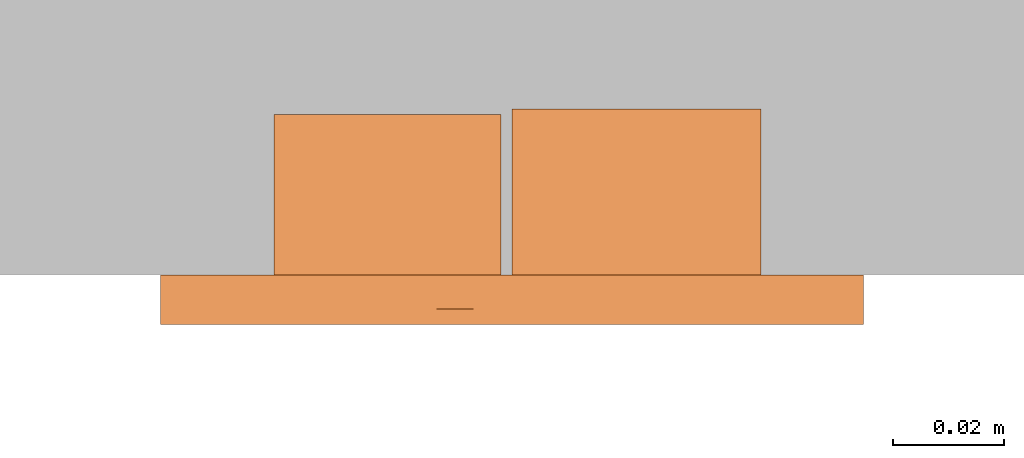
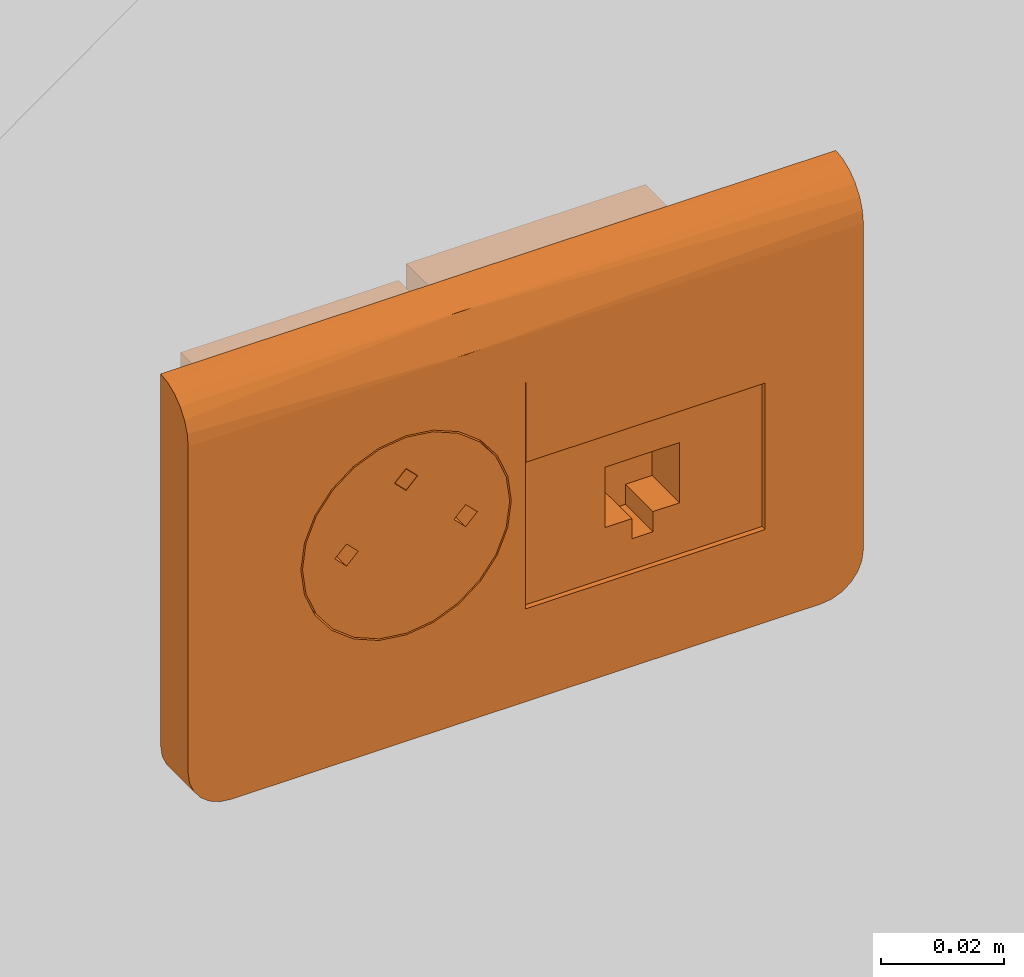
# One storey, part 115 of 197: 1 proxy.
"""IFC2X3 building model written with IfcOpenShell, lengths in metres."""

import ifcopenshell
import ifcopenshell.guid

model = None  # the IFC model being written
_history = None  # IfcOwnerHistory: only IFC2X3 demands one
_inside = {}  # id of a spatial element -> (the spatial element, [elements in it])
_under = {}  # id of a project, library or spatial element -> (it, [spatial elements below it])
_declared = {}  # id of a project -> (the project, [libraries it declares])
_typed = {}  # id of a type object -> (the type object, [elements of that type])
_made_of = {}  # id of a material, layer set ... -> (it, [elements and type objects made of it])


def new_model(schema):
    """Start an empty IFC model of exactly this schema.

    Asked for "IFC4X3", IfcOpenShell would pick the latest addendum, in which some entities
    have other attributes; the version numbers below select the first issue.
    IFC2X3 requires an IfcOwnerHistory on every rooted entity: one is made here for all.
    """
    global model, _history
    if schema == "IFC4X3":
        model = ifcopenshell.file(schema_version=(4, 3, 0, 0))
    else:
        model = ifcopenshell.file(schema=schema)
    _inside.clear()
    _under.clear()
    _declared.clear()
    _typed.clear()
    _made_of.clear()
    _history = None
    if model.schema == "IFC2X3":
        org = make("IfcOrganization", Name="unknown")
        user = make(
            "IfcPersonAndOrganization",
            ThePerson=make("IfcPerson", FamilyName="unknown"),
            TheOrganization=org,
        )
        app = make(
            "IfcApplication",
            ApplicationDeveloper=org,
            Version="unknown",
            ApplicationFullName="unknown",
            ApplicationIdentifier="unknown",
        )
        _history = make(
            "IfcOwnerHistory",
            OwningUser=user,
            OwningApplication=app,
            ChangeAction="ADDED",
            CreationDate=0,
        )
    return model


def make(cls, **values):
    """One entity of the class cls with the attributes given. An attribute that is None is left unset."""
    return model.create_entity(
        cls, **{name: value for name, value in values.items() if value is not None}
    )


def entity(cls, *values):
    """Any entity or typed value of the class cls, its attributes in the order of the schema. None: left unset."""
    e = model.create_entity(cls)
    for i, value in enumerate(values):
        if value is not None:
            e[i] = value
    return e


def rooted(cls, **values):
    """An entity with a GlobalId (a new one), such as an element, a storey or a relation."""
    return make(cls, GlobalId=ifcopenshell.guid.new(), OwnerHistory=_history, **values)


def si_unit(unit_type, name, prefix=None):
    """IfcSIUnit, for example si_unit("LENGTHUNIT", "METRE", prefix="MILLI")."""
    return make("IfcSIUnit", UnitType=unit_type, Prefix=prefix, Name=name)


def converted_unit(unit_type, name, factor, base, dimensions=None, offset=None):
    """IfcConversionBasedUnit, such as the inch: factor (a typed value) times the base unit."""
    return make(
        "IfcConversionBasedUnit"
        if offset is None
        else "IfcConversionBasedUnitWithOffset",
        ConversionOffset=offset,
        Dimensions=None
        if dimensions is None
        else entity("IfcDimensionalExponents", *dimensions),
        UnitType=unit_type,
        Name=name,
        ConversionFactor=make(
            "IfcMeasureWithUnit", ValueComponent=factor, UnitComponent=base
        ),
    )


def assignment(units):
    """IfcUnitAssignment: the units of a project."""
    return None if units is None else make("IfcUnitAssignment", Units=units)


def point(xyz):
    """IfcCartesianPoint."""
    return None if xyz is None else make("IfcCartesianPoint", Coordinates=xyz)


def direction(xyz):
    """IfcDirection."""
    return None if xyz is None else make("IfcDirection", DirectionRatios=xyz)


def frame(location, z_axis=None, x_axis=None):
    """IfcAxis2Placement3D, a coordinate frame: its origin and axes. An axis left out is left unset."""
    return make(
        "IfcAxis2Placement3D",
        Location=point(location),
        Axis=direction(z_axis),
        RefDirection=direction(x_axis),
    )


def origin():
    """The frame at (0, 0, 0) with its axes left unset."""
    return frame((0.0, 0.0, 0.0))


def place(relative_to, where):
    """IfcLocalPlacement: puts the frame where relative to a parent placement (None: the world)."""
    return make(
        "IfcLocalPlacement", PlacementRelTo=relative_to, RelativePlacement=where
    )


def context(
    kind, dimensions, precision=None, world=None, true_north=None, identifier=None
):
    """IfcGeometricRepresentationContext, for example the 3D "Model" context."""
    return make(
        "IfcGeometricRepresentationContext",
        ContextIdentifier=identifier,
        ContextType=kind,
        CoordinateSpaceDimension=dimensions,
        Precision=precision,
        WorldCoordinateSystem=world,
        TrueNorth=true_north,
    )


def subcontext(parent, identifier, kind, view, scale=None):
    """IfcGeometricRepresentationSubContext, for example "Body" below "Model"."""
    return make(
        "IfcGeometricRepresentationSubContext",
        ContextIdentifier=identifier,
        ContextType=kind,
        ParentContext=parent,
        TargetScale=scale,
        TargetView=view,
    )


def project(units=None, contexts=None):
    """IfcProject with its units and contexts."""
    return rooted(
        "IfcProject",
        Name="project",
        RepresentationContexts=contexts,
        UnitsInContext=assignment(units),
    )


def spatial(cls, under=None, at=None, **own):
    """A site, building, storey or space (cls), placed at a placement, below another one or the project."""
    s = rooted(cls, ObjectPlacement=at, **own)
    if under is not None:
        _under.setdefault(under.id(), (under, []))[1].append(s)
    return s


def faces_of(points, faces, orient=None, outer=None):
    """IfcFace entities. A face is a list of loops; a loop is a list of indices into points, from 0.

    orient and outer hold one flag for each loop. By default every Orientation is true, the
    first loop of a face is its IfcFaceOuterBound and the others are IfcFaceBound.
    """
    made = []
    for i, loops in enumerate(faces):
        bounds = []
        for j, loop in enumerate(loops):
            is_outer = j == 0 if outer is None else outer[i][j]
            bounds.append(
                make(
                    "IfcFaceOuterBound" if is_outer else "IfcFaceBound",
                    Bound=make("IfcPolyLoop", Polygon=[points[k] for k in loop]),
                    Orientation=True if orient is None else orient[i][j],
                )
            )
        made.append(make("IfcFace", Bounds=bounds))
    return made


def faceted_brep(points, faces, orient=None, outer=None, voids=None):
    """IfcFacetedBrep: a solid bounded by flat faces; with voids (closed shells), ...WithVoids."""
    shared = [point(p) for p in points]
    hull = make("IfcClosedShell", CfsFaces=faces_of(shared, faces, orient, outer))
    if voids is None:
        return make("IfcFacetedBrep", Outer=hull)
    return make(
        "IfcFacetedBrepWithVoids",
        Outer=hull,
        Voids=[
            make(cls, CfsFaces=faces_of(shared, fs, o, b)) for cls, fs, o, b in voids
        ],
    )


def shape(context_of_items, identifier, shape_type, items):
    """IfcShapeRepresentation: the items that make up one representation, for example the "Body"."""
    return make(
        "IfcShapeRepresentation",
        ContextOfItems=context_of_items,
        RepresentationIdentifier=identifier,
        RepresentationType=shape_type,
        Items=items,
    )


def source(mapping_origin, context_of_items, identifier, shape_type, items):
    """IfcRepresentationMap: a shape defined once, which mapped items show again and again."""
    return make(
        "IfcRepresentationMap",
        MappingOrigin=mapping_origin,
        MappedRepresentation=shape(context_of_items, identifier, shape_type, items),
    )


def transform(
    local_origin,
    x_axis=None,
    y_axis=None,
    z_axis=None,
    scale=None,
    scale2=None,
    scale3=None,
    uniform=True,
):
    """IfcCartesianTransformationOperator3D, or its non-uniform kind. x_axis, y_axis, z_axis: its Axis1, 2, 3."""
    if uniform:
        return make(
            "IfcCartesianTransformationOperator3D",
            Axis1=direction(x_axis),
            Axis2=direction(y_axis),
            LocalOrigin=point(local_origin),
            Scale=scale,
            Axis3=direction(z_axis),
        )
    return make(
        "IfcCartesianTransformationOperator3DnonUniform",
        Axis1=direction(x_axis),
        Axis2=direction(y_axis),
        LocalOrigin=point(local_origin),
        Scale=scale,
        Axis3=direction(z_axis),
        Scale2=scale2,
        Scale3=scale3,
    )


def mapped(mapping_source, mapping_target):
    """IfcMappedItem: shows the shape of a source again, moved by a transform."""
    return make(
        "IfcMappedItem", MappingSource=mapping_source, MappingTarget=mapping_target
    )


def material(Name=None, Category=None):
    """IfcMaterial."""
    return make("IfcMaterial", Name=Name, Category=Category)


def material_list(materials):
    """IfcMaterialList."""
    return make("IfcMaterialList", Materials=materials)


def made_of(thing, what):
    """Note that an element or type object is made of a material, layer set ...; save() writes the relation."""
    if what is not None:
        _made_of.setdefault(what.id(), (what, []))[1].append(thing)
    return thing


def type_object(cls, material=None, **own):
    """A type object (cls), such as IfcWallType, which elements share."""
    return made_of(rooted(cls, **own), material)


def type_shapes(of_type, sources):
    """Give a type object the sources (RepresentationMaps) that its elements show as mapped items."""
    of_type.RepresentationMaps = sources


def element(
    cls,
    number,
    at=None,
    inside=None,
    cuts=None,
    type_object=None,
    material=None,
    context=None,
    identifier="Body",
    shape_type=None,
    held_by="IfcProductDefinitionShape",
    body=None,
    shapes=None,
    **own,
):
    """One element of the class cls, such as IfcWall. Its Tag is "e" and its number.

    at: its placement. inside: the storey or other place that contains it. cuts: it is an
    opening in that element (IfcRelVoidsElement). A single representation is given by context,
    identifier, shape_type and body (its items); several are given by shapes. held_by: the class
    of the entity that holds the representations. save() writes the other relations.
    """
    e = rooted(cls, Tag="e%d" % number, ObjectPlacement=at, **own)
    if body is not None:
        shapes = [shape(context, identifier, shape_type, body)]
    if shapes is not None:
        e.Representation = make(held_by, Representations=shapes)
    if inside is not None:
        _inside.setdefault(inside.id(), (inside, []))[1].append(e)
    if cuts is not None:
        rooted(
            "IfcRelVoidsElement", RelatingBuildingElement=cuts, RelatedOpeningElement=e
        )
    if type_object is not None:
        _typed.setdefault(type_object.id(), (type_object, []))[1].append(e)
    return made_of(e, material)


def aggregate(whole, parts):
    """IfcRelAggregates: a whole, such as a stair, and the parts it consists of."""
    return rooted("IfcRelAggregates", RelatingObject=whole, RelatedObjects=parts)


def save(model, path):
    """Write the relations noted so far, then the file.

    IfcRelAggregates (storeys below a building ...), IfcRelContainedInSpatialStructure (elements
    in a storey), IfcRelDefinesByType, IfcRelAssociatesMaterial and IfcRelDeclares: one each for
    every whole, place, type object, material and project.
    """
    for whole, parts in _under.values():
        aggregate(whole, parts)
    for where, things in _inside.values():
        rooted(
            "IfcRelContainedInSpatialStructure",
            RelatedElements=things,
            RelatingStructure=where,
        )
    for kind, things in _typed.values():
        rooted("IfcRelDefinesByType", RelatedObjects=things, RelatingType=kind)
    for what, things in _made_of.values():
        rooted("IfcRelAssociatesMaterial", RelatedObjects=things, RelatingMaterial=what)
    for by, libraries in _declared.values():
        rooted("IfcRelDeclares", RelatingContext=by, RelatedDefinitions=libraries)
    model.write(path)


model = new_model("IFC2X3")

# Units and contexts
model_context = context("Model", 3, precision=1e-05, world=origin(), true_north=direction((6.123031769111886e-17, 1.0)))
body_context = subcontext(model_context, "Body", "Model", "MODEL_VIEW")
ifc_project = project(units=[si_unit("LENGTHUNIT", "METRE"), converted_unit("PLANEANGLEUNIT", "DEGREE", entity("IfcPlaneAngleMeasure", 0.017453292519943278), si_unit("PLANEANGLEUNIT", "RADIAN"), dimensions=[0, 0, 0, 0, 0, 0, 0]), si_unit("AREAUNIT", "SQUARE_METRE")], contexts=[model_context])

# Site, building, storey
site_placement = place(None, origin())
site = spatial("IfcSite", under=ifc_project, at=site_placement, Name="Default", CompositionType="ELEMENT")
building_placement = place(site_placement, origin())
building = spatial("IfcBuilding", under=site, at=building_placement, CompositionType="ELEMENT")
storey_placement = place(building_placement, origin())
storey = spatial("IfcBuildingStorey", under=building, at=storey_placement, Name="Niveau 0", CompositionType="ELEMENT", Elevation=0.0)

# Proxy
ifc_material_1 = material(Name="BETCE-ENJOLIVEUR PC-BLANC")
ifc_material_2 = material(Name="BETCE-ETIQUETTE RJ-BLEU")
ifc_material_3 = material(Name="<Unnamed>")
ifc_material_4 = material(Name="BETCE-PCN-BLANC")
ifc_material_list = material_list([ifc_material_1, ifc_material_2, ifc_material_3, ifc_material_4])
building_element_proxy_type = type_object("IfcBuildingElementProxyType", Name="Poste travail encastré 1x2 modules-1RJ:1PCN+1RJ", PredefinedType="NOTDEFINED", material=ifc_material_list)
shared_shape = source(origin(), body_context, "Body", "Brep", [
    faceted_brep([(0.04504077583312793, -0.007993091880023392, 0.022499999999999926), (4.0775833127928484e-05, -0.00799309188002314, 0.022499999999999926), (4.0775833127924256e-05, -0.00799309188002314, -0.022500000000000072), (0.04504077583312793, -0.007993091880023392, -0.022500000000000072), (0.015540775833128, -0.007993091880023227, -0.0003655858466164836), (0.022395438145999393, -0.007993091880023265, -0.0003655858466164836), (0.02954077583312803, -0.007993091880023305, -0.0003655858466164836), (0.02954077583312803, -0.007993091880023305, -0.01236558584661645), (0.024540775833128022, -0.007993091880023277, -0.01236558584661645), (0.024540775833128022, -0.007993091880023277, -0.016365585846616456), (0.020540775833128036, -0.007993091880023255, -0.016365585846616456), (0.020540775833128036, -0.007993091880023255, -0.012365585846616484), (0.015540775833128, -0.007993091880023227, -0.012365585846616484), (0.04504077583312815, 0.0300069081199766, 0.022499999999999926), (0.04504077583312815, 0.0300069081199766, -0.022500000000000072), (4.0775833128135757e-05, 0.03000690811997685, -0.022500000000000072), (4.0775833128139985e-05, 0.03000690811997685, 0.022499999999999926), (0.01554077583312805, 0.001000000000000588, -0.0003655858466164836), (0.01554077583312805, 0.001000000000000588, -0.012365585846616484), (0.020540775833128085, 0.0010000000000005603, -0.012365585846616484), (0.020540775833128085, 0.0010000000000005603, -0.016365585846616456), (0.024540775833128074, 0.001000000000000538, -0.016365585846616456), (0.024540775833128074, 0.001000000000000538, -0.01236558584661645), (0.02954077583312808, 0.0010000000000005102, -0.01236558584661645), (0.02954077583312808, 0.0010000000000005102, -0.0003655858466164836), (0.022395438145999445, 0.00100000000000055, -0.0003655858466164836)], [[[0, 1, 2, 3], [4, 5, 6, 7, 8, 9, 10, 11, 12]], [[13, 14, 15, 16]], [[1, 0, 13, 16]], [[2, 1, 16, 15]], [[3, 2, 15, 14]], [[0, 3, 14, 13]], [[17, 18, 19, 20, 21, 22, 23, 24, 25]], [[17, 25, 5, 4]], [[25, 24, 6, 5]], [[24, 23, 7, 6]], [[23, 22, 8, 7]], [[22, 21, 9, 8]], [[21, 20, 10, 9]], [[20, 19, 11, 10]], [[19, 18, 12, 11]], [[18, 17, 4, 12]]]),
    faceted_brep([(0.04504077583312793, -0.008993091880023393, 0.022499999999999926), (4.0775833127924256e-05, -0.008993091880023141, 0.022499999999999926), (4.077583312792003e-05, -0.008993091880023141, 0.006634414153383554), (0.04504077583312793, -0.008993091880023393, 0.006634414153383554), (0.04504077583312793, -0.007993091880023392, 0.022499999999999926), (0.04504077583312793, -0.007993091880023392, 0.006634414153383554), (4.0775833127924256e-05, -0.00799309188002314, 0.006634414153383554), (4.0775833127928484e-05, -0.00799309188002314, 0.022499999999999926)], [[[0, 1, 2, 3]], [[4, 5, 6, 7]], [[1, 0, 4, 7]], [[2, 1, 7, 6]], [[3, 2, 6, 5]], [[0, 3, 5, 4]]]),
    faceted_brep([(0.06354077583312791, -0.008993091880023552, -0.03300000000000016), (0.06354077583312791, -0.008993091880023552, 0.031999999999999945), (0.04504077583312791, -0.008993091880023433, -0.02250000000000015), (0.055540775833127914, -0.0089930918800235, -0.04100000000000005), (0.05761132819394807, -0.008993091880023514, -0.040727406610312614), (0.0595407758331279, -0.008993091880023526, -0.03992820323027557), (0.06119763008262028, -0.008993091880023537, -0.03865685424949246), (0.06326818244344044, -0.00899309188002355, -0.03507055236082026), (0.045040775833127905, -0.008993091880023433, 0.022499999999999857), (-0.04500000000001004, -0.008993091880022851, 0.02249999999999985), (-0.011124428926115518, -0.00899309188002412, 0.031999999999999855), (-0.06350000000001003, -0.008993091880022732, 0.031999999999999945), (-0.04500000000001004, -0.008993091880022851, -0.022500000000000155), (-0.06350000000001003, -0.008993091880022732, -0.033000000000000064), (-0.05550000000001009, -0.008993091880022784, -0.04100000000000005), (-0.0575705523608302, -0.00899309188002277, -0.040727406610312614), (-0.059500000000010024, -0.008993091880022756, -0.03992820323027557), (-0.06115685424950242, -0.008993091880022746, -0.03865685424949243), (-0.06322740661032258, -0.008993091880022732, -0.035070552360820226), (-0.06242820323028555, -0.008993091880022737, -0.03700000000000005), (0.0624689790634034, -0.008993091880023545, -0.03700000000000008), (-0.06350000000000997, 0.0, -0.0330000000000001), (-0.06350000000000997, 0.0, 0.04099999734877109), (-0.04500000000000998, 0.0, 0.02249999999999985), (-0.04500000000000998, 0.0, -0.022500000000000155), (-0.05550000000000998, 0.0, -0.04100000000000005), (-0.05757055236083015, 0.0, -0.040727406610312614), (-0.05950000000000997, 0.0, -0.03992820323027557), (-0.06322740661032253, 0.0, -0.035070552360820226), (0.01116520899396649, 0.0, 0.04099999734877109), (0.06354077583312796, 0.0, 0.04099999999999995), (0.04504077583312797, 0.0, 0.022499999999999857), (0.06354077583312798, 0.0, -0.03300000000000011), (0.045040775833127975, 0.0, -0.02250000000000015), (0.05554077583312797, 0.0, -0.04100000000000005), (0.05761132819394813, 0.0, -0.040727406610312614), (0.05954077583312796, 0.0, -0.03992820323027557), (0.0632681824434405, 0.0, -0.03507055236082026), (0.06119763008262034, 0.0, -0.03865685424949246), (0.062468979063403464, 0.0, -0.03700000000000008), (-0.06115685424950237, 0.0, -0.03865685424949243), (-0.06242820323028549, 0.0, -0.03700000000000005), (0.06354077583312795, -0.0023280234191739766, 0.04069184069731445), (0.06354077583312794, -0.004497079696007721, 0.039791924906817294), (0.06354077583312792, -0.006359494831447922, 0.03836151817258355), (0.06354077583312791, -0.007788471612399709, 0.03649800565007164), (0.06354077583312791, -0.008686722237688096, 0.03432825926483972), (-0.06350000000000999, -0.002328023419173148, 0.04069184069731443), (-0.06350000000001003, -0.008686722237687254, 0.03432825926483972), (-0.06350000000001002, -0.007788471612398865, 0.036498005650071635), (-0.06350000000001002, -0.006359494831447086, 0.03836151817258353), (-0.06350000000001, -0.004497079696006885, 0.03979192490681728), (-0.010869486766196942, -0.006115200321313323, 0.038596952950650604)], [[[0, 1, 2]], [[3, 0, 2]], [[0, 3, 4]], [[0, 4, 5]], [[5, 6, 0]], [[7, 0, 6]], [[2, 1, 8]], [[1, 9, 8]], [[9, 1, 10]], [[9, 10, 11]], [[12, 9, 11]], [[13, 12, 11]], [[14, 12, 13]], [[14, 13, 15]], [[16, 15, 13]], [[13, 17, 16]], [[17, 13, 18]], [[17, 18, 19]], [[12, 14, 3]], [[2, 12, 3]], [[20, 7, 6]], [[21, 22, 23]], [[24, 21, 23]], [[25, 21, 24]], [[21, 25, 26]], [[21, 26, 27]], [[28, 21, 27]], [[23, 22, 29]], [[23, 29, 30]], [[31, 23, 30]], [[32, 31, 30]], [[33, 31, 32]], [[34, 33, 32]], [[34, 32, 35]], [[36, 35, 32]], [[36, 32, 37]], [[37, 38, 36]], [[38, 37, 39]], [[33, 34, 25]], [[24, 33, 25]], [[27, 40, 28]], [[41, 28, 40]], [[1, 0, 32, 30, 42, 43, 44, 45, 46]], [[37, 32, 0, 7]], [[39, 37, 7, 20]], [[38, 39, 20, 6]], [[36, 38, 6, 5]], [[35, 36, 5, 4]], [[34, 35, 4, 3]], [[25, 34, 3, 14]], [[26, 25, 14, 15]], [[27, 26, 15, 16]], [[40, 27, 16, 17]], [[41, 40, 17, 19]], [[28, 41, 19, 18]], [[21, 28, 18, 13]], [[47, 22, 21, 13, 11, 48, 49, 50, 51]], [[24, 23, 9, 12]], [[33, 24, 12, 2]], [[31, 33, 2, 8]], [[23, 31, 8, 9]], [[52, 10, 45]], [[48, 11, 10]], [[1, 46, 10]], [[44, 52, 45]], [[46, 45, 10]], [[51, 52, 47]], [[49, 48, 10]], [[29, 52, 43]], [[49, 52, 50]], [[42, 30, 29]], [[29, 22, 47]], [[49, 10, 52]], [[29, 43, 42]], [[44, 43, 52]], [[52, 51, 50]], [[52, 29, 47]]]),
    faceted_brep([(-0.042999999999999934, 0.0, 0.02049999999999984), (-0.042999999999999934, 0.0, -0.02050000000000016), (-0.0019999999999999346, 0.0, -0.02050000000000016), (-0.0019999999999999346, 0.0, 0.02049999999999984), (-0.042999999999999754, 0.029006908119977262, 0.02049999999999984), (-0.0019999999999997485, 0.029006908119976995, 0.02049999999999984), (-0.0019999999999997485, 0.029006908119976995, -0.02050000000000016), (-0.042999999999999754, 0.029006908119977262, -0.02050000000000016)], [[[0, 1, 2, 3]], [[4, 5, 6, 7]], [[1, 0, 4, 7]], [[2, 1, 7, 6]], [[3, 2, 6, 5]], [[0, 3, 5, 4]]]),
    faceted_brep([(-0.045000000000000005, -0.008993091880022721, 0.02249999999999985), (-0.032399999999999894, -0.008993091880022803, 0.01714730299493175), (-0.027624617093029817, -0.008993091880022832, 0.019125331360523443), (-0.03650071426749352, -0.008993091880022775, 0.01400071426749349), (-0.02249999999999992, -0.008993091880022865, 0.019799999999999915), (-0.03964730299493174, -0.008993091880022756, 0.00989999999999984), (-0.041625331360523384, -0.008993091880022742, 0.005124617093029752), (-0.04229999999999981, -0.008993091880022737, 0.0), (-0.04500000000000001, -0.008993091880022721, -0.022500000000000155), (0.0, -0.008993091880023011, 0.02249999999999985), (-0.041625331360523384, -0.008993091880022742, -0.005124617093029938), (-0.03964730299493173, -0.008993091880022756, -0.009900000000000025), (-0.0365007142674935, -0.008993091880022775, -0.014000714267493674), (-0.03239999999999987, -0.008993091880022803, -0.01714730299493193), (-0.027624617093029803, -0.008993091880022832, -0.019125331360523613), (-0.022499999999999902, -0.008993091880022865, -0.019800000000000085), (0.0, -0.008993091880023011, -0.022500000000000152), (-0.01737538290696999, -0.0089930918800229, -0.01912533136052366), (-0.012599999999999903, -0.00899309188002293, -0.017147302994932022), (-0.008499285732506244, -0.008993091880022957, -0.014000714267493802), (-0.0053526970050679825, -0.008993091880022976, -0.009900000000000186), (-0.0033746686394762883, -0.008993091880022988, -0.005124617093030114), (-0.0026999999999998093, -0.008993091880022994, 0.0), (-0.01737538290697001, -0.0089930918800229, 0.019125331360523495), (-0.012599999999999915, -0.00899309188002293, 0.01714730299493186), (-0.00849928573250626, -0.008993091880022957, 0.014000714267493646), (-0.005352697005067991, -0.008993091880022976, 0.009900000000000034), (-0.003374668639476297, -0.008993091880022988, 0.005124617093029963), (-0.04499999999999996, 0.0, -0.022500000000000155), (-0.03239999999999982, 0.0, -0.01714730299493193), (-0.02762461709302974, 0.0, -0.019125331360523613), (-0.03650071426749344, 0.0, -0.014000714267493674), (-0.022499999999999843, 0.0, -0.019800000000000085), (-0.03964730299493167, 0.0, -0.009900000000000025), (-0.041625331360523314, 0.0, -0.005124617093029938), (-0.04229999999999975, 0.0, 0.0), (-0.04499999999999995, 0.0, 0.02249999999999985), (0.0, 0.0, -0.022500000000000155), (-0.04162533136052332, 0.0, 0.005124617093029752), (-0.039647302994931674, 0.0, 0.00989999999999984), (-0.036500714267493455, 0.0, 0.01400071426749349), (-0.03239999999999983, 0.0, 0.01714730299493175), (-0.027624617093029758, 0.0, 0.019125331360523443), (-0.02249999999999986, 0.0, 0.019799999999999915), (0.0, 0.0, 0.02249999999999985), (-0.017375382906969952, 0.0, 0.019125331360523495), (-0.012599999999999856, 0.0, 0.01714730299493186), (-0.0084992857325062, 0.0, 0.014000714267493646), (-0.005352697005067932, 0.0, 0.009900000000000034), (-0.0033746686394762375, 0.0, 0.005124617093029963), (-0.00269999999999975, 0.0, 0.0), (-0.01737538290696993, 0.0, -0.01912533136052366), (-0.012599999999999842, 0.0, -0.017147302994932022), (-0.008499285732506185, 0.0, -0.014000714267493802), (-0.0053526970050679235, 0.0, -0.009900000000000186), (-0.0033746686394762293, 0.0, -0.005124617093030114)], [[[0, 1, 2]], [[1, 0, 3]], [[0, 2, 4]], [[5, 3, 0]], [[6, 5, 0]], [[7, 6, 0]], [[0, 8, 7]], [[4, 9, 0]], [[10, 7, 8]], [[11, 10, 8]], [[12, 11, 8]], [[8, 13, 12]], [[13, 8, 14]], [[15, 14, 8]], [[8, 16, 15]], [[17, 15, 16]], [[18, 17, 16]], [[16, 19, 18]], [[19, 16, 20]], [[21, 20, 16]], [[22, 21, 16]], [[22, 16, 9]], [[9, 4, 23]], [[9, 23, 24]], [[24, 25, 9]], [[25, 26, 9]], [[26, 27, 9]], [[9, 27, 22]], [[28, 29, 30]], [[29, 28, 31]], [[28, 30, 32]], [[33, 31, 28]], [[34, 33, 28]], [[35, 34, 28]], [[28, 36, 35]], [[32, 37, 28]], [[38, 35, 36]], [[39, 38, 36]], [[40, 39, 36]], [[36, 41, 40]], [[41, 36, 42]], [[43, 42, 36]], [[36, 44, 43]], [[45, 43, 44]], [[46, 45, 44]], [[44, 47, 46]], [[47, 44, 48]], [[49, 48, 44]], [[50, 49, 44]], [[50, 44, 37]], [[37, 32, 51]], [[37, 51, 52]], [[52, 53, 37]], [[53, 54, 37]], [[54, 55, 37]], [[37, 55, 50]], [[36, 28, 8, 0]], [[44, 36, 0, 9]], [[37, 44, 9, 16]], [[28, 37, 16, 8]], [[35, 7, 10, 34]], [[34, 10, 11, 33]], [[29, 31, 12, 13]], [[12, 31, 33, 11]], [[30, 29, 13, 14]], [[30, 14, 15, 32]], [[32, 15, 17, 51]], [[51, 17, 18, 52]], [[54, 53, 19, 20]], [[19, 53, 52, 18]], [[55, 54, 20, 21]], [[55, 21, 22, 50]], [[50, 22, 27, 49]], [[49, 27, 26, 48]], [[46, 47, 25, 24]], [[25, 47, 48, 26]], [[45, 46, 24, 23]], [[45, 23, 4, 43]], [[43, 4, 2, 42]], [[42, 2, 1, 41]], [[39, 40, 3, 5]], [[3, 40, 41, 1]], [[38, 39, 5, 6]], [[38, 6, 7, 35]]]),
    faceted_brep([(-0.0336999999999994, 0.0, -0.002200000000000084), (-0.032249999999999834, 0.0, -0.01688749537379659), (-0.03628858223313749, 0.0, -0.013788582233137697), (-0.027546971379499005, 0.0, -0.01883555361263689), (-0.03938749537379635, 0.0, -0.009750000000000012), (-0.03149999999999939, 0.0, 0.0), (-0.0413355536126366, 0.0, -0.005046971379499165), (-0.035899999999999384, 0.0, 0.0), (-0.022499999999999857, 0.0, -0.019500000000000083), (-0.013499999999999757, 0.0, 0.0), (-0.02249999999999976, 0.0, 0.00889999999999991), (-0.02469999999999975, 0.0, 0.011099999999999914), (-0.0336999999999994, 0.0, 0.0021999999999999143), (-0.0413355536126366, 0.0, 0.005046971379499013), (-0.03938749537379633, 0.0, 0.009749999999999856), (-0.03628858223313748, 0.0, 0.013788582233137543), (-0.03224999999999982, 0.0, 0.01688749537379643), (-0.027546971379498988, 0.0, 0.01883555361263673), (-0.022499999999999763, 0.0, 0.013299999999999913), (-0.020299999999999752, 0.0, 0.011099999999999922), (-0.017453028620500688, 0.0, 0.018835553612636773), (-0.012749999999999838, 0.0, 0.016887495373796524), (-0.008711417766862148, 0.0, 0.01378858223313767), (-0.01129999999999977, 0.0, 0.0021999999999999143), (-0.0056125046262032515, 0.0, 0.009750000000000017), (-0.0036644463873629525, 0.0, 0.005046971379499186), (-0.00909999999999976, 0.0, 0.0), (-0.017453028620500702, 0.0, -0.018835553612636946), (-0.011299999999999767, 0.0, -0.002200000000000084), (-0.012749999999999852, 0.0, -0.016887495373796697), (-0.00871141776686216, 0.0, -0.01378858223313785), (-0.00561250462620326, 0.0, -0.0097500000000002), (-0.0036644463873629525, 0.0, -0.005046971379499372), (-0.0029999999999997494, 0.0, 0.0), (-0.04199999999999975, 0.0, 0.0), (-0.02249999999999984, 0.0, 0.019499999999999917), (-0.032249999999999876, -0.008993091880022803, 0.01688749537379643), (-0.03628858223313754, -0.008993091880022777, 0.013788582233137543), (-0.02469999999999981, -0.008993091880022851, 0.011099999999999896), (-0.027546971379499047, -0.008993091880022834, 0.01883555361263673), (-0.03369999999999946, -0.008993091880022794, 0.0021999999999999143), (-0.0393874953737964, -0.008993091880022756, 0.009749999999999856), (-0.041335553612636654, -0.008993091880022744, 0.005046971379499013), (-0.035899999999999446, -0.00899309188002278, 0.0), (-0.04199999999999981, -0.00899309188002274, 0.0), (-0.04133555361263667, -0.008993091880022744, -0.005046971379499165), (-0.03369999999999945, -0.008993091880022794, -0.002200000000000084), (-0.0393874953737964, -0.008993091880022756, -0.009750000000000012), (-0.036288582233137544, -0.008993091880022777, -0.013788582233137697), (-0.0322499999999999, -0.008993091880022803, -0.01688749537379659), (-0.027546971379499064, -0.008993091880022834, -0.01883555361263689), (-0.031499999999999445, -0.008993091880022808, 0.0), (-0.022499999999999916, -0.008993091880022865, -0.019500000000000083), (-0.013499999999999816, -0.008993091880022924, 0.0), (-0.01745302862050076, -0.008993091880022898, -0.018835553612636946), (-0.011299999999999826, -0.008993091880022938, -0.002200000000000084), (-0.01274999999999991, -0.00899309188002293, -0.016887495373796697), (-0.008711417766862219, -0.008993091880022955, -0.01378858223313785), (-0.005612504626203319, -0.008993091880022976, -0.0097500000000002), (-0.003664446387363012, -0.008993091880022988, -0.005046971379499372), (-0.009099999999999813, -0.008993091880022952, 0.0), (-0.002999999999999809, -0.008993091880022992, 0.0), (-0.003664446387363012, -0.008993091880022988, 0.005046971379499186), (-0.011299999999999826, -0.008993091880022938, 0.0021999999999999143), (-0.005612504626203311, -0.008993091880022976, 0.009750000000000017), (-0.008711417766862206, -0.008993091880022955, 0.01378858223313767), (-0.02029999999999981, -0.008993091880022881, 0.011099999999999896), (-0.012749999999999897, -0.00899309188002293, 0.016887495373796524), (-0.017453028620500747, -0.008993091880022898, 0.018835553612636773), (-0.022499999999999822, -0.008993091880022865, 0.013299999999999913), (-0.0224999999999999, -0.008993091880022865, 0.019499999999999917), (-0.02249999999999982, -0.008993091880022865, 0.00889999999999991)], [[[0, 1, 2]], [[0, 3, 1]], [[2, 4, 0]], [[0, 5, 3]], [[6, 0, 4]], [[7, 0, 6]], [[3, 5, 8]], [[8, 5, 9]], [[9, 5, 10]], [[10, 5, 11]], [[12, 11, 5]], [[13, 12, 7]], [[13, 14, 12]], [[12, 14, 15]], [[15, 11, 12]], [[15, 16, 11]], [[17, 11, 16]], [[11, 17, 18]], [[19, 9, 10]], [[18, 20, 19]], [[21, 19, 20]], [[19, 21, 22]], [[19, 22, 23]], [[9, 19, 23]], [[24, 23, 22]], [[23, 24, 25]], [[26, 23, 25]], [[27, 8, 9]], [[28, 27, 9]], [[28, 29, 27]], [[28, 30, 29]], [[28, 31, 30]], [[28, 32, 31]], [[32, 28, 26]], [[32, 26, 33]], [[33, 26, 25]], [[6, 34, 7]], [[7, 34, 13]], [[18, 17, 35]], [[20, 18, 35]], [[36, 37, 38]], [[38, 39, 36]], [[37, 40, 38]], [[40, 37, 41]], [[41, 42, 40]], [[40, 42, 43]], [[44, 43, 42]], [[44, 45, 43]], [[46, 43, 45]], [[45, 47, 46]], [[46, 47, 48]], [[49, 46, 48]], [[46, 49, 50]], [[51, 46, 50]], [[51, 50, 52]], [[52, 53, 51]], [[53, 52, 54]], [[55, 53, 54]], [[54, 56, 55]], [[56, 57, 55]], [[55, 57, 58]], [[58, 59, 55]], [[60, 55, 59]], [[59, 61, 60]], [[61, 62, 60]], [[62, 63, 60]], [[64, 63, 62]], [[64, 65, 63]], [[63, 65, 66]], [[66, 65, 67]], [[66, 67, 68]], [[66, 68, 69]], [[68, 70, 69]], [[70, 39, 69]], [[69, 39, 38]], [[53, 66, 71]], [[63, 66, 53]], [[71, 51, 53]], [[38, 51, 71]], [[38, 40, 51]], [[42, 13, 34, 44]], [[41, 14, 13, 42]], [[15, 37, 36, 16]], [[41, 37, 15, 14]], [[16, 36, 39, 17]], [[17, 39, 70, 35]], [[67, 21, 20, 68]], [[65, 22, 21, 67]], [[24, 64, 62, 25]], [[65, 64, 24, 22]], [[25, 62, 61, 33]], [[20, 35, 70, 68]], [[59, 32, 33, 61]], [[58, 31, 32, 59]], [[30, 57, 56, 29]], [[58, 57, 30, 31]], [[29, 56, 54, 27]], [[27, 54, 52, 8]], [[49, 1, 3, 50]], [[48, 2, 1, 49]], [[4, 47, 45, 6]], [[48, 47, 4, 2]], [[6, 45, 44, 34]], [[3, 8, 52, 50]], [[71, 10, 11, 38]], [[66, 19, 10, 71]], [[69, 18, 19, 66]], [[38, 11, 18, 69]], [[55, 28, 9, 53]], [[60, 26, 28, 55]], [[63, 23, 26, 60]], [[53, 9, 23, 63]], [[46, 0, 7, 43]], [[51, 5, 0, 46]], [[40, 12, 5, 51]], [[43, 7, 12, 40]]]),
    faceted_brep([(-0.02249999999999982, -0.008993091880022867, 0.008999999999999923), (-0.020399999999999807, -0.008993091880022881, 0.011099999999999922), (-0.022499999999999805, -0.008993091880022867, 0.01319999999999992), (-0.02459999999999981, -0.008993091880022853, 0.011099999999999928), (-0.02459999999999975, 0.0, 0.011099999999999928), (-0.022499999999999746, 0.0, 0.01319999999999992), (-0.020399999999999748, 0.0, 0.011099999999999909), (-0.02249999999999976, 0.0, 0.008999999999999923)], [[[0, 1, 2, 3]], [[4, 5, 6, 7]], [[3, 4, 7, 0]], [[7, 6, 1, 0]], [[1, 6, 5, 2]], [[5, 4, 3, 2]]]),
])
type_shapes(building_element_proxy_type, [shared_shape])
proxy_placement = place(storey_placement, frame((-387.18344850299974, 97.32254659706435, 0.49999999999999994)))
element("IfcBuildingElementProxy", 1, at=proxy_placement, inside=storey, type_object=building_element_proxy_type, material=ifc_material_list, Name="Poste travail encastré 1x2 modules-1RJ:1PCN+1RJ", ObjectType="Poste travail encastré 1x2 modules-1RJ:1PCN+1RJ", context=body_context, shape_type="MappedRepresentation", body=[
    mapped(shared_shape, transform((0.0, 0.0, 0.0), scale=1.0)),
])

save(model, "model.ifc")
